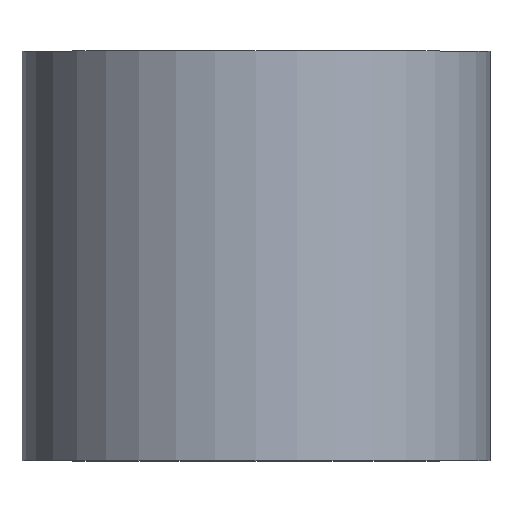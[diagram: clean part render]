
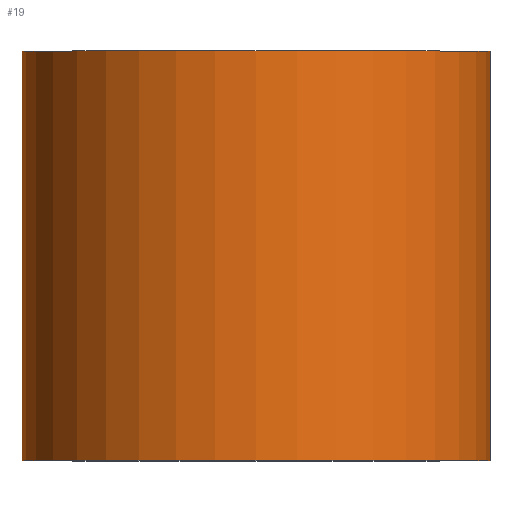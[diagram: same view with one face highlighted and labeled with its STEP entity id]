
A CAD part, top view. The second image highlights one B-rep face of the part: STEP entity #19.
In plain terms, the highlighted cylindrical face has radius 20 mm (diameter 40 mm), a partial arc.
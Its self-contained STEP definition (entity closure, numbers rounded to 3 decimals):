
#17 = CARTESIAN_POINT ( 'NONE',  ( 20., 35., 0. ) ) ;
#19 = ADVANCED_FACE ( 'NONE', ( #340 ), #486, .T. ) ;
#20 = CARTESIAN_POINT ( 'NONE',  ( 20., 0., 0. ) ) ;
#34 = CIRCLE ( 'NONE', #73, 20. ) ;
#35 = CARTESIAN_POINT ( 'NONE',  ( -20., 0., 0. ) ) ;
#38 = DIRECTION ( 'NONE',  ( 1., 0., 0. ) ) ;
#61 = DIRECTION ( 'NONE',  ( 1., 0., 0. ) ) ;
#69 = EDGE_CURVE ( 'NONE', #248, #399, #34, .T. ) ;
#73 = AXIS2_PLACEMENT_3D ( 'NONE', #487, #253, #112 ) ;
#74 = VECTOR ( 'NONE', #366, 1000. ) ;
#94 = ORIENTED_EDGE ( 'NONE', *, *, #328, .T. ) ;
#112 = DIRECTION ( 'NONE',  ( 1., 0., 0. ) ) ;
#118 = CARTESIAN_POINT ( 'NONE',  ( -20., 17.5, 0. ) ) ;
#126 = LINE ( 'NONE', #118, #439 ) ;
#172 = EDGE_CURVE ( 'NONE', #399, #242, #126, .T. ) ;
#176 = AXIS2_PLACEMENT_3D ( 'NONE', #519, #427, #38 ) ;
#178 = DIRECTION ( 'NONE',  ( 0., 1., 0. ) ) ;
#181 = CARTESIAN_POINT ( 'NONE',  ( 20., 17.5, 0. ) ) ;
#202 = CARTESIAN_POINT ( 'NONE',  ( 0., 17.5, 0. ) ) ;
#215 = EDGE_LOOP ( 'NONE', ( #447, #461, #412, #94 ) ) ;
#242 = VERTEX_POINT ( 'NONE', #542 ) ;
#246 = DIRECTION ( 'NONE',  ( 0., 1., 0. ) ) ;
#248 = VERTEX_POINT ( 'NONE', #20 ) ;
#253 = DIRECTION ( 'NONE',  ( 0., -1., 0. ) ) ;
#274 = LINE ( 'NONE', #181, #74 ) ;
#328 = EDGE_CURVE ( 'NONE', #497, #242, #360, .T. ) ;
#336 = EDGE_CURVE ( 'NONE', #248, #497, #274, .T. ) ;
#340 = FACE_OUTER_BOUND ( 'NONE', #215, .T. ) ;
#360 = CIRCLE ( 'NONE', #176, 20. ) ;
#366 = DIRECTION ( 'NONE',  ( 0., 1., 0. ) ) ;
#373 = AXIS2_PLACEMENT_3D ( 'NONE', #202, #246, #61 ) ;
#399 = VERTEX_POINT ( 'NONE', #35 ) ;
#412 = ORIENTED_EDGE ( 'NONE', *, *, #336, .T. ) ;
#427 = DIRECTION ( 'NONE',  ( 0., -1., 0. ) ) ;
#439 = VECTOR ( 'NONE', #178, 1000. ) ;
#447 = ORIENTED_EDGE ( 'NONE', *, *, #172, .F. ) ;
#461 = ORIENTED_EDGE ( 'NONE', *, *, #69, .F. ) ;
#486 = CYLINDRICAL_SURFACE ( 'NONE', #373, 20. ) ;
#487 = CARTESIAN_POINT ( 'NONE',  ( 0., 0., 0. ) ) ;
#497 = VERTEX_POINT ( 'NONE', #17 ) ;
#519 = CARTESIAN_POINT ( 'NONE',  ( 0., 35., 0. ) ) ;
#542 = CARTESIAN_POINT ( 'NONE',  ( -20., 35., 0. ) ) ;
